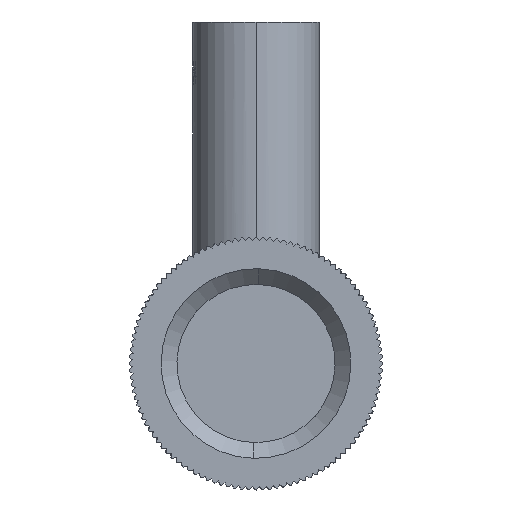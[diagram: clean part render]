
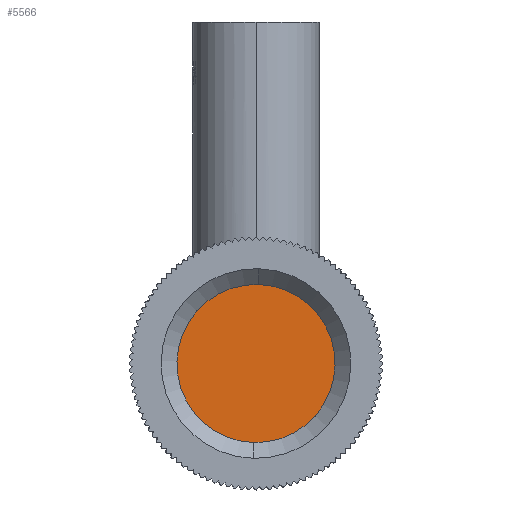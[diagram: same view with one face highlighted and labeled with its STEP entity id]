
A CAD part, left-side view. The second image highlights one B-rep face of the part: STEP entity #5566.
In plain terms, the highlighted planar face has unit normal (-1, 0, 0) as drawn and (0, 0, -1) by its records, which use the part's own axes.
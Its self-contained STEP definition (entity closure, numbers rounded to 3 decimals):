
#1427 = CARTESIAN_POINT ( 'NONE',  ( 0., 0., 2.5 ) ) ;
#1707 = EDGE_CURVE ( 'NONE', #2394, #8085, #3039, .T. ) ;
#2165 = DIRECTION ( 'NONE',  ( -1., 0., 0. ) ) ;
#2394 = VERTEX_POINT ( 'NONE', #9613 ) ;
#3039 = CIRCLE ( 'NONE', #13935, 12.5 ) ;
#3100 = EDGE_CURVE ( 'NONE', #8085, #2394, #15024, .T. ) ;
#3323 = PLANE ( 'NONE',  #4402 ) ;
#3657 = ORIENTED_EDGE ( 'NONE', *, *, #1707, .T. ) ;
#4402 = AXIS2_PLACEMENT_3D ( 'NONE', #8198, #6816, #2165 ) ;
#5174 = DIRECTION ( 'NONE',  ( -1., 0., 0. ) ) ;
#5566 = ADVANCED_FACE ( 'NONE', ( #6970 ), #3323, .T. ) ;
#6312 = DIRECTION ( 'NONE',  ( 0., 0., -1. ) ) ;
#6816 = DIRECTION ( 'NONE',  ( 0., 0., -1. ) ) ;
#6970 = FACE_OUTER_BOUND ( 'NONE', #15530, .T. ) ;
#8021 = AXIS2_PLACEMENT_3D ( 'NONE', #11532, #12772, #12520 ) ;
#8085 = VERTEX_POINT ( 'NONE', #14544 ) ;
#8198 = CARTESIAN_POINT ( 'NONE',  ( 0., 0., 2.5 ) ) ;
#9613 = CARTESIAN_POINT ( 'NONE',  ( 12.5, 0., 2.5 ) ) ;
#11532 = CARTESIAN_POINT ( 'NONE',  ( 0., 0., 2.5 ) ) ;
#12172 = ORIENTED_EDGE ( 'NONE', *, *, #3100, .T. ) ;
#12520 = DIRECTION ( 'NONE',  ( -1., 0., 0. ) ) ;
#12772 = DIRECTION ( 'NONE',  ( 0., 0., -1. ) ) ;
#13935 = AXIS2_PLACEMENT_3D ( 'NONE', #1427, #6312, #5174 ) ;
#14544 = CARTESIAN_POINT ( 'NONE',  ( -12.5, 0., 2.5 ) ) ;
#15024 = CIRCLE ( 'NONE', #8021, 12.5 ) ;
#15530 = EDGE_LOOP ( 'NONE', ( #12172, #3657 ) ) ;
